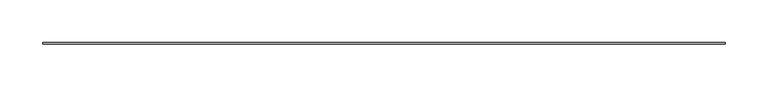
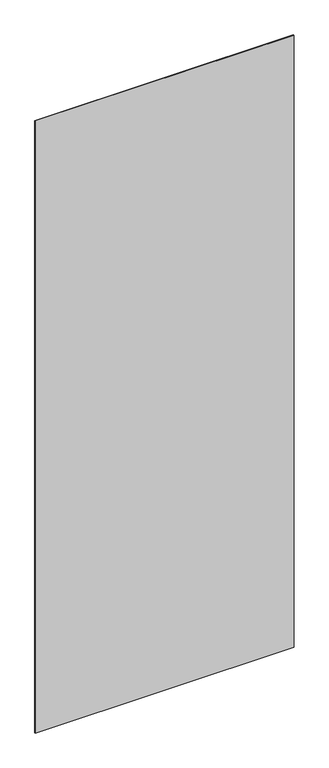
"""IFC4 building model written with IfcOpenShell, lengths in millimetres: proxy geometry, AQUAPANEL showcase solid : AQUAPANEL showcase solid."""

from ifc_helpers import new_model, si_unit, origin, origin_with_axes, place, context, project, spatial, polyline, outline, extrude, source, transform, mapped, element, save


def generic_models_c424e3db(model_context):
    return source(origin(), model_context, "Body", "SweptSolid", [
        extrude(outline(polyline([(17886.0136184, 15435.3863455), (18686.0136184, 15435.3863455), (18686.0136184, 15433.3863455), (17886.0136184, 15433.3863455), (17886.0136184, 15435.3863455)])), origin_with_axes(), (0.0, 0.0, 1.0), 2000.0),
    ])


if __name__ == "__main__":
    model = new_model("IFC4")
    model_context = context("Model", 3, world=origin())
    ifc_project = project(units=[si_unit("LENGTHUNIT", "METRE", prefix="MILLI")], contexts=[model_context])
    site = spatial("IfcSite", under=ifc_project)
    building = spatial("IfcBuilding", under=site)
    placement = place(None, origin())
    generic_models_shape = generic_models_c424e3db(model_context)
    element("IfcBuildingElementProxy", 1, Name="AQUAPANEL showcase solid : AQUAPANEL showcase solid", ObjectType="AQUAPANEL showcase solid : AQUAPANEL showcase solid", at=placement, inside=building, context=model_context, shape_type="MappedRepresentation", body=[
        mapped(generic_models_shape, transform((0.0, 0.0, 0.0), x_axis=(1.0, 0.0, 0.0), y_axis=(0.0, 1.0, 0.0), z_axis=(0.0, 0.0, 1.0))),
    ])
    save(model, "model.ifc")
